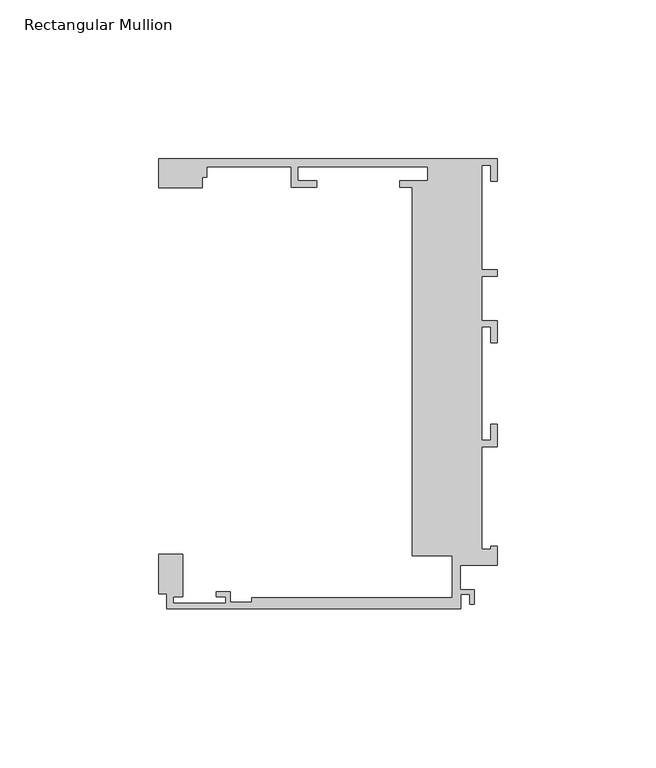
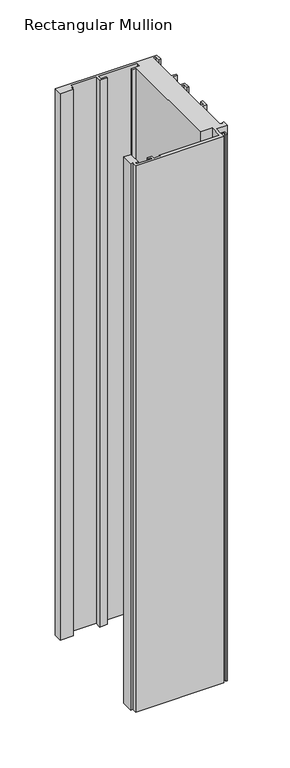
"""IFC4 building model written with IfcOpenShell, lengths in millimetres: member geometry, Rectangular Mullion : Danpal_K12_End-Mullion_B1."""

from ifc_helpers import new_model, si_unit, frame, origin, place, context, project, spatial, polyline, outline, extrude, source, transform, mapped, element, save


def rectangular_mullion_547a187c(model_context):
    return source(origin(), model_context, "Body", "SweptSolid", [
        extrude(outline(polyline([(-26.6209612, 117.8676658), (-30.6, 117.8676658), (-30.6, 119.8676658), (-21.835, 119.8676658), (-21.835, 124.2676658), (-62.7350275, 124.2676658), (-62.7350275, 119.8676658), (-56.7350275, 119.8676658), (-56.7350275, 117.8676658), (-64.7350275, 117.8676658), (-64.7350275, 124.2676658), (-91.2900275, 124.2676658), (-91.2900275, 121.0676175), (-92.8228167, 121.0676175), (-92.8228167, 117.6986749), (-106.4117426, 117.6986749), (-106.4117426, 126.7676657), (0.0, 126.7676657), (0.0, 119.7676657), (-2.0, 119.7676657), (-2.0, 124.7676657), (-4.8, 124.7676657), (-4.8, 91.8676485), (0.0, 91.8676485), (0.0, 89.8676485), (-4.8, 89.8676485), (-4.8, 75.867683), (0.0, 75.867683), (0.0, 68.8676657), (-2.0, 68.8676657), (-2.0, 73.8676657), (-4.8, 73.8676657), (-4.8, 38.2443486), (-2.0, 38.2443486), (-2.0, 43.2443486), (0.0, 43.2443486), (0.0, 36.2443486), (-4.8, 36.2443486), (-4.8, 3.9448486), (-2.0, 3.9448486), (-2.0, 4.9448486), (0.0, 4.9448486), (0.0, -1.0551514), (-11.6055875, -1.0551514), (-11.6055875, -8.8006425), (-7.1518595, -8.8006425), (-7.1518595, -13.3051514), (-8.6518595, -13.3051514), (-8.6518595, -10.3006425), (-11.4019537, -10.3006425), (-11.4019537, -14.8051514), (-103.8999976, -14.8051514), (-103.8999976, -10.065304), (-106.4117426, -10.065304), (-106.4117426, 2.316674), (-98.8999976, 2.316674), (-98.8999976, -11.0051513), (-101.8999976, -11.0051513), (-101.8999976, -13.0051512), (-85.3999976, -13.0051512), (-85.3999976, -11.0051513), (-88.3999976, -11.0051513), (-88.3999976, -9.5051512), (-83.8999976, -9.5051512), (-83.8999976, -12.8051513), (-77.1531178, -12.8051513), (-77.1531178, -11.3051512), (-14.1055875, -11.3051512), (-14.1055875, 1.9446289), (-26.6209612, 1.9446289), (-26.6209612, 117.8676658)])), frame((0.0, 0.0, -605.0), z_axis=(0.0, 0.0, 1.0), x_axis=(1.0, 0.0, 0.0)), (0.0, 0.0, 1.0), 605.0),
    ])


if __name__ == "__main__":
    model = new_model("IFC4")
    model_context = context("Model", 3, world=origin())
    ifc_project = project(units=[si_unit("LENGTHUNIT", "METRE", prefix="MILLI")], contexts=[model_context])
    site = spatial("IfcSite", under=ifc_project)
    building = spatial("IfcBuilding", under=site)
    placement = place(None, origin())
    rectangular_mullion_shape = rectangular_mullion_547a187c(model_context)
    element("IfcMember", 1, ObjectType="Rectangular Mullion : Danpal_K12_End-Mullion_B1", at=placement, inside=building, context=model_context, shape_type="MappedRepresentation", body=[
        mapped(rectangular_mullion_shape, transform((0.0, 0.0, 0.0), x_axis=(1.0, 0.0, 0.0), y_axis=(0.0, 1.0, 0.0), z_axis=(0.0, 0.0, 1.0))),
    ])
    save(model, "model.ifc")
